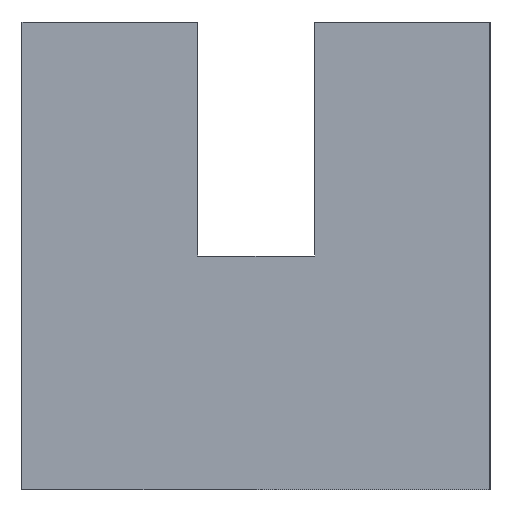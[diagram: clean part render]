
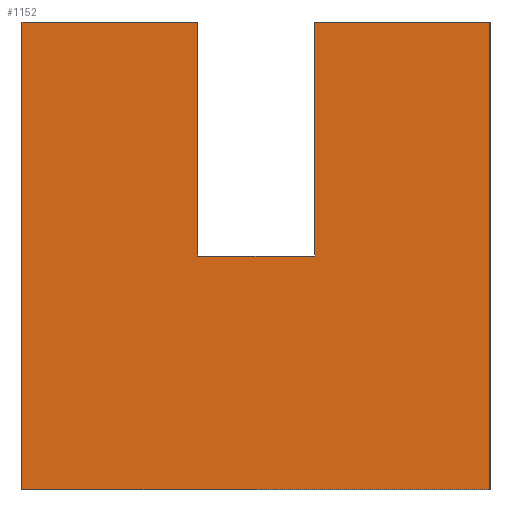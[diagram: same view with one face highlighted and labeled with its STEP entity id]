
A CAD part, left-side view. The second image highlights one B-rep face of the part: STEP entity #1152.
In plain terms, the highlighted planar face has unit normal (-1, 0, 0).
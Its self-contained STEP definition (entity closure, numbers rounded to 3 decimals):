
#55 = PLANE('',#56);
#56 = AXIS2_PLACEMENT_3D('',#57,#58,#59);
#57 = CARTESIAN_POINT('',(0.,-34.,7.));
#58 = DIRECTION('',(0.,0.,1.));
#59 = DIRECTION('',(1.,0.,0.));
#83 = PLANE('',#84);
#84 = AXIS2_PLACEMENT_3D('',#85,#86,#87);
#85 = CARTESIAN_POINT('',(-5.,-36.,5.));
#86 = DIRECTION('',(0.,-1.,0.));
#87 = DIRECTION('',(1.,0.,0.));
#280 = VERTEX_POINT('',#281);
#281 = CARTESIAN_POINT('',(-5.,-33.5,7.));
#288 = PLANE('',#289);
#289 = AXIS2_PLACEMENT_3D('',#290,#291,#292);
#290 = CARTESIAN_POINT('',(-5.,-33.5,5.));
#291 = DIRECTION('',(0.,-1.,0.));
#292 = DIRECTION('',(1.,0.,0.));
#336 = VERTEX_POINT('',#337);
#337 = CARTESIAN_POINT('',(-5.,-33.5,9.));
#351 = PLANE('',#352);
#352 = AXIS2_PLACEMENT_3D('',#353,#354,#355);
#353 = CARTESIAN_POINT('',(-3.75,-32.75,9.));
#354 = DIRECTION('',(0.,0.,1.));
#355 = DIRECTION('',(1.,0.,0.));
#363 = EDGE_CURVE('',#280,#336,#364,.T.);
#364 = SURFACE_CURVE('',#365,(#369,#376),.PCURVE_S1.);
#365 = LINE('',#366,#367);
#366 = CARTESIAN_POINT('',(-5.,-33.5,5.));
#367 = VECTOR('',#368,1.);
#368 = DIRECTION('',(0.,0.,1.));
#369 = PCURVE('',#288,#370);
#370 = DEFINITIONAL_REPRESENTATION('',(#371),#375);
#371 = LINE('',#372,#373);
#372 = CARTESIAN_POINT('',(0.,0.));
#373 = VECTOR('',#374,1.);
#374 = DIRECTION('',(0.,1.));
#375 = ( GEOMETRIC_REPRESENTATION_CONTEXT(2) 
PARAMETRIC_REPRESENTATION_CONTEXT() REPRESENTATION_CONTEXT('2D SPACE',''
  ) );
#376 = PCURVE('',#377,#382);
#377 = PLANE('',#378);
#378 = AXIS2_PLACEMENT_3D('',#379,#380,#381);
#379 = CARTESIAN_POINT('',(-5.,-34.5,5.));
#380 = DIRECTION('',(-1.,0.,0.));
#381 = DIRECTION('',(0.,-1.,0.));
#382 = DEFINITIONAL_REPRESENTATION('',(#383),#387);
#383 = LINE('',#384,#385);
#384 = CARTESIAN_POINT('',(-1.,0.));
#385 = VECTOR('',#386,1.);
#386 = DIRECTION('',(0.,1.));
#387 = ( GEOMETRIC_REPRESENTATION_CONTEXT(2) 
PARAMETRIC_REPRESENTATION_CONTEXT() REPRESENTATION_CONTEXT('2D SPACE',''
  ) );
#431 = PLANE('',#432);
#432 = AXIS2_PLACEMENT_3D('',#433,#434,#435);
#433 = CARTESIAN_POINT('',(2.5,-32.,5.));
#434 = DIRECTION('',(0.,1.,0.));
#435 = DIRECTION('',(-1.,0.,0.));
#469 = VERTEX_POINT('',#470);
#470 = CARTESIAN_POINT('',(-5.,-32.,9.));
#491 = EDGE_CURVE('',#469,#336,#492,.T.);
#492 = SURFACE_CURVE('',#493,(#497,#504),.PCURVE_S1.);
#493 = LINE('',#494,#495);
#494 = CARTESIAN_POINT('',(-5.,-32.,9.));
#495 = VECTOR('',#496,1.);
#496 = DIRECTION('',(0.,-1.,0.));
#497 = PCURVE('',#351,#498);
#498 = DEFINITIONAL_REPRESENTATION('',(#499),#503);
#499 = LINE('',#500,#501);
#500 = CARTESIAN_POINT('',(-1.25,0.75));
#501 = VECTOR('',#502,1.);
#502 = DIRECTION('',(0.,-1.));
#503 = ( GEOMETRIC_REPRESENTATION_CONTEXT(2) 
PARAMETRIC_REPRESENTATION_CONTEXT() REPRESENTATION_CONTEXT('2D SPACE',''
  ) );
#504 = PCURVE('',#377,#505);
#505 = DEFINITIONAL_REPRESENTATION('',(#506),#510);
#506 = LINE('',#507,#508);
#507 = CARTESIAN_POINT('',(-2.5,4.));
#508 = VECTOR('',#509,1.);
#509 = DIRECTION('',(1.,0.));
#510 = ( GEOMETRIC_REPRESENTATION_CONTEXT(2) 
PARAMETRIC_REPRESENTATION_CONTEXT() REPRESENTATION_CONTEXT('2D SPACE',''
  ) );
#750 = VERTEX_POINT('',#751);
#751 = CARTESIAN_POINT('',(-5.,-32.,5.));
#765 = PLANE('',#766);
#766 = AXIS2_PLACEMENT_3D('',#767,#768,#769);
#767 = CARTESIAN_POINT('',(-3.75,-35.25,5.));
#768 = DIRECTION('',(0.,0.,1.));
#769 = DIRECTION('',(1.,0.,0.));
#777 = EDGE_CURVE('',#750,#469,#778,.T.);
#778 = SURFACE_CURVE('',#779,(#783,#790),.PCURVE_S1.);
#779 = LINE('',#780,#781);
#780 = CARTESIAN_POINT('',(-5.,-32.,5.));
#781 = VECTOR('',#782,1.);
#782 = DIRECTION('',(0.,0.,1.));
#783 = PCURVE('',#431,#784);
#784 = DEFINITIONAL_REPRESENTATION('',(#785),#789);
#785 = LINE('',#786,#787);
#786 = CARTESIAN_POINT('',(7.5,0.));
#787 = VECTOR('',#788,1.);
#788 = DIRECTION('',(0.,1.));
#789 = ( GEOMETRIC_REPRESENTATION_CONTEXT(2) 
PARAMETRIC_REPRESENTATION_CONTEXT() REPRESENTATION_CONTEXT('2D SPACE',''
  ) );
#790 = PCURVE('',#377,#791);
#791 = DEFINITIONAL_REPRESENTATION('',(#792),#796);
#792 = LINE('',#793,#794);
#793 = CARTESIAN_POINT('',(-2.5,0.));
#794 = VECTOR('',#795,1.);
#795 = DIRECTION('',(0.,1.));
#796 = ( GEOMETRIC_REPRESENTATION_CONTEXT(2) 
PARAMETRIC_REPRESENTATION_CONTEXT() REPRESENTATION_CONTEXT('2D SPACE',''
  ) );
#920 = EDGE_CURVE('',#280,#921,#923,.T.);
#921 = VERTEX_POINT('',#922);
#922 = CARTESIAN_POINT('',(-5.,-34.5,7.));
#923 = SURFACE_CURVE('',#924,(#928,#935),.PCURVE_S1.);
#924 = LINE('',#925,#926);
#925 = CARTESIAN_POINT('',(-5.,-32.,7.));
#926 = VECTOR('',#927,1.);
#927 = DIRECTION('',(0.,-1.,0.));
#928 = PCURVE('',#55,#929);
#929 = DEFINITIONAL_REPRESENTATION('',(#930),#934);
#930 = LINE('',#931,#932);
#931 = CARTESIAN_POINT('',(-5.,2.));
#932 = VECTOR('',#933,1.);
#933 = DIRECTION('',(0.,-1.));
#934 = ( GEOMETRIC_REPRESENTATION_CONTEXT(2) 
PARAMETRIC_REPRESENTATION_CONTEXT() REPRESENTATION_CONTEXT('2D SPACE',''
  ) );
#935 = PCURVE('',#377,#936);
#936 = DEFINITIONAL_REPRESENTATION('',(#937),#941);
#937 = LINE('',#938,#939);
#938 = CARTESIAN_POINT('',(-2.5,2.));
#939 = VECTOR('',#940,1.);
#940 = DIRECTION('',(1.,0.));
#941 = ( GEOMETRIC_REPRESENTATION_CONTEXT(2) 
PARAMETRIC_REPRESENTATION_CONTEXT() REPRESENTATION_CONTEXT('2D SPACE',''
  ) );
#959 = PLANE('',#960);
#960 = AXIS2_PLACEMENT_3D('',#961,#962,#963);
#961 = CARTESIAN_POINT('',(-2.5,-34.5,5.));
#962 = DIRECTION('',(0.,1.,0.));
#963 = DIRECTION('',(-1.,0.,0.));
#1071 = PLANE('',#1072);
#1072 = AXIS2_PLACEMENT_3D('',#1073,#1074,#1075);
#1073 = CARTESIAN_POINT('',(-3.75,-35.25,9.));
#1074 = DIRECTION('',(0.,0.,1.));
#1075 = DIRECTION('',(1.,0.,0.));
#1108 = EDGE_CURVE('',#921,#1109,#1111,.T.);
#1109 = VERTEX_POINT('',#1110);
#1110 = CARTESIAN_POINT('',(-5.,-34.5,9.));
#1111 = SURFACE_CURVE('',#1112,(#1116,#1123),.PCURVE_S1.);
#1112 = LINE('',#1113,#1114);
#1113 = CARTESIAN_POINT('',(-5.,-34.5,5.));
#1114 = VECTOR('',#1115,1.);
#1115 = DIRECTION('',(0.,0.,1.));
#1116 = PCURVE('',#959,#1117);
#1117 = DEFINITIONAL_REPRESENTATION('',(#1118),#1122);
#1118 = LINE('',#1119,#1120);
#1119 = CARTESIAN_POINT('',(2.5,0.));
#1120 = VECTOR('',#1121,1.);
#1121 = DIRECTION('',(0.,1.));
#1122 = ( GEOMETRIC_REPRESENTATION_CONTEXT(2) 
PARAMETRIC_REPRESENTATION_CONTEXT() REPRESENTATION_CONTEXT('2D SPACE',''
  ) );
#1123 = PCURVE('',#377,#1124);
#1124 = DEFINITIONAL_REPRESENTATION('',(#1125),#1129);
#1125 = LINE('',#1126,#1127);
#1126 = CARTESIAN_POINT('',(0.,0.));
#1127 = VECTOR('',#1128,1.);
#1128 = DIRECTION('',(0.,1.));
#1129 = ( GEOMETRIC_REPRESENTATION_CONTEXT(2) 
PARAMETRIC_REPRESENTATION_CONTEXT() REPRESENTATION_CONTEXT('2D SPACE',''
  ) );
#1152 = ADVANCED_FACE('',(#1153),#377,.T.);
#1153 = FACE_BOUND('',#1154,.T.);
#1154 = EDGE_LOOP('',(#1155,#1178,#1201,#1222,#1223,#1224,#1225,#1226));
#1155 = ORIENTED_EDGE('',*,*,#1156,.T.);
#1156 = EDGE_CURVE('',#750,#1157,#1159,.T.);
#1157 = VERTEX_POINT('',#1158);
#1158 = CARTESIAN_POINT('',(-5.,-36.,5.));
#1159 = SURFACE_CURVE('',#1160,(#1164,#1171),.PCURVE_S1.);
#1160 = LINE('',#1161,#1162);
#1161 = CARTESIAN_POINT('',(-5.,-32.,5.));
#1162 = VECTOR('',#1163,1.);
#1163 = DIRECTION('',(0.,-1.,0.));
#1164 = PCURVE('',#377,#1165);
#1165 = DEFINITIONAL_REPRESENTATION('',(#1166),#1170);
#1166 = LINE('',#1167,#1168);
#1167 = CARTESIAN_POINT('',(-2.5,0.));
#1168 = VECTOR('',#1169,1.);
#1169 = DIRECTION('',(1.,0.));
#1170 = ( GEOMETRIC_REPRESENTATION_CONTEXT(2) 
PARAMETRIC_REPRESENTATION_CONTEXT() REPRESENTATION_CONTEXT('2D SPACE',''
  ) );
#1171 = PCURVE('',#765,#1172);
#1172 = DEFINITIONAL_REPRESENTATION('',(#1173),#1177);
#1173 = LINE('',#1174,#1175);
#1174 = CARTESIAN_POINT('',(-1.25,3.25));
#1175 = VECTOR('',#1176,1.);
#1176 = DIRECTION('',(0.,-1.));
#1177 = ( GEOMETRIC_REPRESENTATION_CONTEXT(2) 
PARAMETRIC_REPRESENTATION_CONTEXT() REPRESENTATION_CONTEXT('2D SPACE',''
  ) );
#1178 = ORIENTED_EDGE('',*,*,#1179,.T.);
#1179 = EDGE_CURVE('',#1157,#1180,#1182,.T.);
#1180 = VERTEX_POINT('',#1181);
#1181 = CARTESIAN_POINT('',(-5.,-36.,9.));
#1182 = SURFACE_CURVE('',#1183,(#1187,#1194),.PCURVE_S1.);
#1183 = LINE('',#1184,#1185);
#1184 = CARTESIAN_POINT('',(-5.,-36.,5.));
#1185 = VECTOR('',#1186,1.);
#1186 = DIRECTION('',(0.,0.,1.));
#1187 = PCURVE('',#377,#1188);
#1188 = DEFINITIONAL_REPRESENTATION('',(#1189),#1193);
#1189 = LINE('',#1190,#1191);
#1190 = CARTESIAN_POINT('',(1.5,0.));
#1191 = VECTOR('',#1192,1.);
#1192 = DIRECTION('',(0.,1.));
#1193 = ( GEOMETRIC_REPRESENTATION_CONTEXT(2) 
PARAMETRIC_REPRESENTATION_CONTEXT() REPRESENTATION_CONTEXT('2D SPACE',''
  ) );
#1194 = PCURVE('',#83,#1195);
#1195 = DEFINITIONAL_REPRESENTATION('',(#1196),#1200);
#1196 = LINE('',#1197,#1198);
#1197 = CARTESIAN_POINT('',(0.,0.));
#1198 = VECTOR('',#1199,1.);
#1199 = DIRECTION('',(0.,1.));
#1200 = ( GEOMETRIC_REPRESENTATION_CONTEXT(2) 
PARAMETRIC_REPRESENTATION_CONTEXT() REPRESENTATION_CONTEXT('2D SPACE',''
  ) );
#1201 = ORIENTED_EDGE('',*,*,#1202,.F.);
#1202 = EDGE_CURVE('',#1109,#1180,#1203,.T.);
#1203 = SURFACE_CURVE('',#1204,(#1208,#1215),.PCURVE_S1.);
#1204 = LINE('',#1205,#1206);
#1205 = CARTESIAN_POINT('',(-5.,-32.,9.));
#1206 = VECTOR('',#1207,1.);
#1207 = DIRECTION('',(0.,-1.,0.));
#1208 = PCURVE('',#377,#1209);
#1209 = DEFINITIONAL_REPRESENTATION('',(#1210),#1214);
#1210 = LINE('',#1211,#1212);
#1211 = CARTESIAN_POINT('',(-2.5,4.));
#1212 = VECTOR('',#1213,1.);
#1213 = DIRECTION('',(1.,0.));
#1214 = ( GEOMETRIC_REPRESENTATION_CONTEXT(2) 
PARAMETRIC_REPRESENTATION_CONTEXT() REPRESENTATION_CONTEXT('2D SPACE',''
  ) );
#1215 = PCURVE('',#1071,#1216);
#1216 = DEFINITIONAL_REPRESENTATION('',(#1217),#1221);
#1217 = LINE('',#1218,#1219);
#1218 = CARTESIAN_POINT('',(-1.25,3.25));
#1219 = VECTOR('',#1220,1.);
#1220 = DIRECTION('',(0.,-1.));
#1221 = ( GEOMETRIC_REPRESENTATION_CONTEXT(2) 
PARAMETRIC_REPRESENTATION_CONTEXT() REPRESENTATION_CONTEXT('2D SPACE',''
  ) );
#1222 = ORIENTED_EDGE('',*,*,#1108,.F.);
#1223 = ORIENTED_EDGE('',*,*,#920,.F.);
#1224 = ORIENTED_EDGE('',*,*,#363,.T.);
#1225 = ORIENTED_EDGE('',*,*,#491,.F.);
#1226 = ORIENTED_EDGE('',*,*,#777,.F.);
